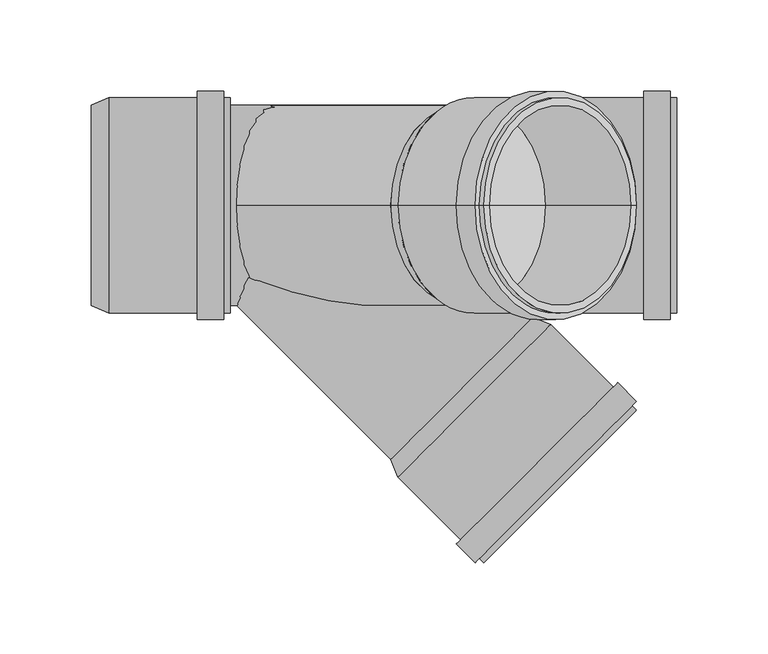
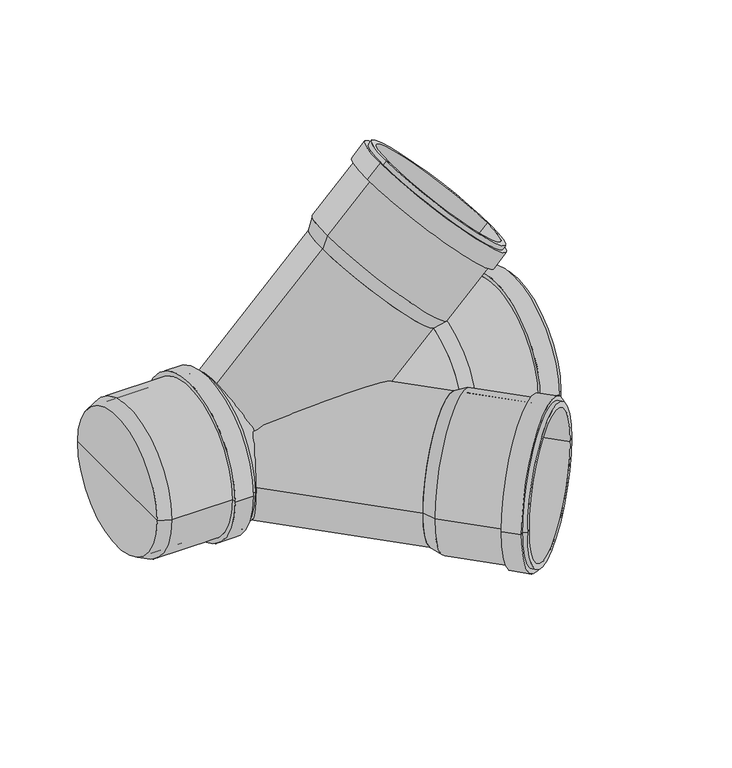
"""IFC4 building model written with IfcOpenShell, lengths in millimetres: pipe fitting geometry, pf_HTED : pf_HTED."""

from ifc_helpers import new_model, si_unit, point, frame, origin, origin_2d, place, context, project, spatial, polyline, circle_curve, trimmed, segment, composite_curve, outline, extrude, source, transform, mapped, element, save
from ifc_brep_helpers import plane_surface, cylinder_surface, revolved_surface, advanced_brep


def pipe_fitting_8f208a38(model_context):
    return source(origin(), model_context, "Body", "SolidModel", [
        advanced_brep(
        [(139.1586145, 0.0, 61.3768686), (61.3768686, 0.0, 139.1586145), (65.1952452, 0.0, 148.7752668), (148.7752668, 0.0, 65.1952452), (100.2677416, 0.0, 100.2677416), (195.7978677, 0.0, 112.2178462), (112.2178462, 0.0, 195.7978677), (115.116984, 0.0, 192.8987299), (192.8987299, 0.0, 115.116984), (193.3937047, 0.0, 109.8136831), (109.8136831, 0.0, 193.3937047), (195.7978677, 0.0, 107.4095201), (107.4095201, 0.0, 195.7978677), (185.5448194, 0.0, 97.1564717), (97.1564717, 0.0, 185.5448194), (183.1406563, 0.0, 99.5606348), (99.5606348, 0.0, 183.1406563), (145.876129, 0.0, 68.094383), (68.094383, 0.0, 145.876129), (106.985256, 0.0, 106.985256)],
        [
            (0, 1, circle_curve(frame((100.2677416, 0.0, 100.2677416), z_axis=(0.707106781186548, 0.0, 0.7071067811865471), x_axis=(-0.7071067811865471, 0.0, 0.707106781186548)), 55.0)),
            (1, 2),
            (2, 3, circle_curve(frame((106.985256, 0.0, 106.985256), z_axis=(-0.707106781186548, 0.0, -0.7071067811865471), x_axis=(-0.7071067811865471, 0.0, 0.707106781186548)), 59.1)),
            (3, 0),
            (1, 0, circle_curve(frame((100.2677416, 0.0, 100.2677416), z_axis=(0.707106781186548, 0.0, 0.7071067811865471), x_axis=(-0.7071067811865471, 0.0, 0.707106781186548)), 55.0)),
            (3, 2, circle_curve(frame((106.985256, 0.0, 106.985256), z_axis=(-0.707106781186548, 0.0, -0.7071067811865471), x_axis=(-0.7071067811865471, 0.0, 0.707106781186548)), 59.1)),
            (4, 1),
            (0, 4),
            (5, 6, circle_curve(frame((154.0078569, 0.0, 154.0078569), z_axis=(0.707106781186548, 0.0, 0.7071067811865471), x_axis=(-0.7071067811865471, 0.0, 0.707106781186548)), 59.1)),
            (6, 7),
            (7, 8, circle_curve(frame((154.0078569, 0.0, 154.0078569), z_axis=(-0.707106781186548, 0.0, -0.7071067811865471), x_axis=(-0.7071067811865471, 0.0, 0.707106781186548)), 55.0)),
            (8, 5),
            (6, 5, circle_curve(frame((154.0078569, 0.0, 154.0078569), z_axis=(0.707106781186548, 0.0, 0.7071067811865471), x_axis=(-0.7071067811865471, 0.0, 0.707106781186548)), 59.1)),
            (8, 7, circle_curve(frame((154.0078569, 0.0, 154.0078569), z_axis=(-0.707106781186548, 0.0, -0.7071067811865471), x_axis=(-0.7071067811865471, 0.0, 0.707106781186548)), 55.0)),
            (9, 10, circle_curve(frame((151.6036939, 0.0, 151.6036939), z_axis=(0.707106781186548, 0.0, 0.7071067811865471), x_axis=(-0.7071067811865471, 0.0, 0.707106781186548)), 59.1)),
            (10, 6),
            (5, 9),
            (10, 9, circle_curve(frame((151.6036939, 0.0, 151.6036939), z_axis=(0.707106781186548, 0.0, 0.7071067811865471), x_axis=(-0.7071067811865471, 0.0, 0.707106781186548)), 59.1)),
            (11, 12, circle_curve(frame((151.6036939, 0.0, 151.6036939), z_axis=(0.707106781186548, 0.0, 0.7071067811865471), x_axis=(-0.7071067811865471, 0.0, 0.707106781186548)), 62.5)),
            (12, 10),
            (9, 11),
            (12, 11, circle_curve(frame((151.6036939, 0.0, 151.6036939), z_axis=(0.707106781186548, 0.0, 0.7071067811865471), x_axis=(-0.7071067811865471, 0.0, 0.707106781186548)), 62.5)),
            (13, 14, circle_curve(frame((141.3506456, 0.0, 141.3506456), z_axis=(0.707106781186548, 0.0, 0.7071067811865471), x_axis=(-0.7071067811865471, 0.0, 0.707106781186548)), 62.5)),
            (14, 12),
            (11, 13),
            (14, 13, circle_curve(frame((141.3506456, 0.0, 141.3506456), z_axis=(0.707106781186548, 0.0, 0.7071067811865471), x_axis=(-0.7071067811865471, 0.0, 0.707106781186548)), 62.5)),
            (15, 16, circle_curve(frame((141.3506456, 0.0, 141.3506456), z_axis=(0.707106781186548, 0.0, 0.7071067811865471), x_axis=(-0.7071067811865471, 0.0, 0.707106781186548)), 59.1)),
            (16, 14),
            (13, 15),
            (16, 15, circle_curve(frame((141.3506456, 0.0, 141.3506456), z_axis=(0.707106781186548, 0.0, 0.7071067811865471), x_axis=(-0.7071067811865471, 0.0, 0.707106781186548)), 59.1)),
            (2, 16),
            (15, 3),
            (17, 18, circle_curve(frame((106.985256, 0.0, 106.985256), z_axis=(0.707106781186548, 0.0, 0.7071067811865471), x_axis=(-0.7071067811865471, 0.0, 0.707106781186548)), 55.0)),
            (18, 19),
            (19, 17),
            (18, 17, circle_curve(frame((106.985256, 0.0, 106.985256), z_axis=(0.707106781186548, 0.0, 0.7071067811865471), x_axis=(-0.7071067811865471, 0.0, 0.707106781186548)), 55.0)),
            (7, 18),
            (17, 8),
        ],
        [
            revolved_surface(polyline([(65.1952452, 0.0, 148.7752668), (61.3768686, 0.0, 139.1586145)]), (100.2677416, 0.0, 100.2677416), (-0.707106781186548, 0.0, -0.7071067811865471)),
            plane_surface(frame((100.2677416, 0.0, 100.2677416), z_axis=(-0.707106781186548, 0.0, -0.7071067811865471), x_axis=(-0.7071067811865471, 0.0, 0.707106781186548))),
            plane_surface(frame((154.0078569, 0.0, 154.0078569), z_axis=(0.707106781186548, 0.0, 0.7071067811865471), x_axis=(-0.7071067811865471, 0.0, 0.707106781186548))),
            cylinder_surface(frame((100.2677416, 0.0, 100.2677416), z_axis=(-0.707106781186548, 0.0, -0.7071067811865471), x_axis=(-0.7071067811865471, 0.0, 0.707106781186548)), 59.1),
            plane_surface(frame((151.6036939, 0.0, 151.6036939), z_axis=(0.707106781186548, 0.0, 0.7071067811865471), x_axis=(-0.7071067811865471, 0.0, 0.707106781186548))),
            cylinder_surface(frame((100.2677416, 0.0, 100.2677416), z_axis=(-0.707106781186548, 0.0, -0.7071067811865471), x_axis=(-0.7071067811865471, 0.0, 0.707106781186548)), 62.5),
            plane_surface(frame((141.3506456, 0.0, 141.3506456), z_axis=(-0.707106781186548, 0.0, -0.7071067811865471), x_axis=(-0.7071067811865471, 0.0, 0.707106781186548))),
            plane_surface(frame((106.985256, 0.0, 106.985256), z_axis=(0.707106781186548, 0.0, 0.7071067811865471), x_axis=(-0.7071067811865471, 0.0, 0.707106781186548))),
            revolved_surface(polyline([(68.09438303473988, 0.0, 145.8761289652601), (115.11698398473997, 0.0, 192.89872991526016)]), (100.2677416, 0.0, 100.2677416), (-0.707106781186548, 0.0, -0.7071067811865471)),
        ],
        [
            (0, [[1, 2, 3, 4]]),
            (0, [[5, -4, 6, -2]]),
            (1, [[7, -1, 8]]),
            (1, [[-8, -5, -7]]),
            (2, [[9, 10, 11, 12]]),
            (2, [[13, -12, 14, -10]]),
            (3, [[15, 16, -9, 17]]),
            (3, [[18, -17, -13, -16]]),
            (4, [[19, 20, -15, 21]]),
            (4, [[22, -21, -18, -20]]),
            (5, [[23, 24, -19, 25]]),
            (5, [[26, -25, -22, -24]]),
            (6, [[27, 28, -23, 29]]),
            (6, [[30, -29, -26, -28]]),
            (3, [[-3, 31, -27, 32]]),
            (3, [[-6, -32, -30, -31]]),
            (7, [[33, 34, 35]]),
            (7, [[36, -35, -34]]),
            (8, [[-11, 37, -33, 38]]),
            (8, [[-14, -38, -36, -37]]),
        ],
    ),
        advanced_brep(
        [(61.3768686, -139.1586145, 0.0), (139.1586145, -61.3768686, 0.0), (148.7752668, -65.1952452, 0.0), (65.1952452, -148.7752668, 0.0), (100.2677416, -100.2677416, 0.0), (112.2178462, -195.7978677, 0.0), (195.7978677, -112.2178462, 0.0), (192.8987299, -115.116984, 0.0), (115.116984, -192.8987299, 0.0), (109.8136831, -193.3937047, 0.0), (193.3937047, -109.8136831, 0.0), (107.4095201, -195.7978677, 0.0), (195.7978677, -107.4095201, 0.0), (97.1564717, -185.5448194, 0.0), (185.5448194, -97.1564717, 0.0), (99.5606348, -183.1406563, 0.0), (183.1406563, -99.5606348, 0.0), (68.094383, -145.876129, 0.0), (145.876129, -68.094383, 0.0), (106.985256, -106.985256, 0.0)],
        [
            (0, 1, circle_curve(frame((100.2677416, -100.2677416, 0.0), z_axis=(0.7071067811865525, -0.7071067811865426, 0.0), x_axis=(0.7071067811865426, 0.7071067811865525, 0.0)), 55.0)),
            (1, 2),
            (2, 3, circle_curve(frame((106.985256, -106.985256, 0.0), z_axis=(-0.7071067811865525, 0.7071067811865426, 0.0), x_axis=(0.7071067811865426, 0.7071067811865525, 0.0)), 59.1)),
            (3, 0),
            (1, 0, circle_curve(frame((100.2677416, -100.2677416, 0.0), z_axis=(0.7071067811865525, -0.7071067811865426, 0.0), x_axis=(0.7071067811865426, 0.7071067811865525, 0.0)), 55.0)),
            (3, 2, circle_curve(frame((106.985256, -106.985256, 0.0), z_axis=(-0.7071067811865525, 0.7071067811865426, 0.0), x_axis=(0.7071067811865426, 0.7071067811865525, 0.0)), 59.1)),
            (4, 1),
            (0, 4),
            (5, 6, circle_curve(frame((154.0078569, -154.0078569, 0.0), z_axis=(0.7071067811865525, -0.7071067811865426, 0.0), x_axis=(0.7071067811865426, 0.7071067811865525, 0.0)), 59.1)),
            (6, 7),
            (7, 8, circle_curve(frame((154.0078569, -154.0078569, 0.0), z_axis=(-0.7071067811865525, 0.7071067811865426, 0.0), x_axis=(0.7071067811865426, 0.7071067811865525, 0.0)), 55.0)),
            (8, 5),
            (6, 5, circle_curve(frame((154.0078569, -154.0078569, 0.0), z_axis=(0.7071067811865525, -0.7071067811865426, 0.0), x_axis=(0.7071067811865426, 0.7071067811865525, 0.0)), 59.1)),
            (8, 7, circle_curve(frame((154.0078569, -154.0078569, 0.0), z_axis=(-0.7071067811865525, 0.7071067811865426, 0.0), x_axis=(0.7071067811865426, 0.7071067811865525, 0.0)), 55.0)),
            (9, 10, circle_curve(frame((151.6036939, -151.6036939, 0.0), z_axis=(0.7071067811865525, -0.7071067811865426, 0.0), x_axis=(0.7071067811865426, 0.7071067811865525, 0.0)), 59.1)),
            (10, 6),
            (5, 9),
            (10, 9, circle_curve(frame((151.6036939, -151.6036939, 0.0), z_axis=(0.7071067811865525, -0.7071067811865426, 0.0), x_axis=(0.7071067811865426, 0.7071067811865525, 0.0)), 59.1)),
            (11, 12, circle_curve(frame((151.6036939, -151.6036939, 0.0), z_axis=(0.7071067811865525, -0.7071067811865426, 0.0), x_axis=(0.7071067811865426, 0.7071067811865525, 0.0)), 62.5)),
            (12, 10),
            (9, 11),
            (12, 11, circle_curve(frame((151.6036939, -151.6036939, 0.0), z_axis=(0.7071067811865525, -0.7071067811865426, 0.0), x_axis=(0.7071067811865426, 0.7071067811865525, 0.0)), 62.5)),
            (13, 14, circle_curve(frame((141.3506456, -141.3506456, 0.0), z_axis=(0.7071067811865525, -0.7071067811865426, 0.0), x_axis=(0.7071067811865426, 0.7071067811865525, 0.0)), 62.5)),
            (14, 12),
            (11, 13),
            (14, 13, circle_curve(frame((141.3506456, -141.3506456, 0.0), z_axis=(0.7071067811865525, -0.7071067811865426, 0.0), x_axis=(0.7071067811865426, 0.7071067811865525, 0.0)), 62.5)),
            (15, 16, circle_curve(frame((141.3506456, -141.3506456, 0.0), z_axis=(0.7071067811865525, -0.7071067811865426, 0.0), x_axis=(0.7071067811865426, 0.7071067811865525, 0.0)), 59.1)),
            (16, 14),
            (13, 15),
            (16, 15, circle_curve(frame((141.3506456, -141.3506456, 0.0), z_axis=(0.7071067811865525, -0.7071067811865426, 0.0), x_axis=(0.7071067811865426, 0.7071067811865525, 0.0)), 59.1)),
            (2, 16),
            (15, 3),
            (17, 18, circle_curve(frame((106.985256, -106.985256, 0.0), z_axis=(0.7071067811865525, -0.7071067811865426, 0.0), x_axis=(0.7071067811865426, 0.7071067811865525, 0.0)), 55.0)),
            (18, 19),
            (19, 17),
            (18, 17, circle_curve(frame((106.985256, -106.985256, 0.0), z_axis=(0.7071067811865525, -0.7071067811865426, 0.0), x_axis=(0.7071067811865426, 0.7071067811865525, 0.0)), 55.0)),
            (7, 18),
            (17, 8),
        ],
        [
            revolved_surface(polyline([(148.7752668, -65.1952452, 0.0), (139.1586145, -61.3768686, 0.0)]), (100.2677416, -100.2677416, 0.0), (-0.7071067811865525, 0.7071067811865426, 0.0)),
            plane_surface(frame((100.2677416, -100.2677416, 0.0), z_axis=(-0.7071067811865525, 0.7071067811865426, 0.0), x_axis=(0.7071067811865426, 0.7071067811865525, 0.0))),
            plane_surface(frame((154.0078569, -154.0078569, 0.0), z_axis=(0.7071067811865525, -0.7071067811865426, 0.0), x_axis=(0.7071067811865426, 0.7071067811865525, 0.0))),
            cylinder_surface(frame((100.2677416, -100.2677416, 0.0), z_axis=(-0.7071067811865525, 0.7071067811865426, 0.0), x_axis=(0.7071067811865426, 0.7071067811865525, 0.0)), 59.1),
            plane_surface(frame((151.6036939, -151.6036939, 0.0), z_axis=(0.7071067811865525, -0.7071067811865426, 0.0), x_axis=(0.7071067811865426, 0.7071067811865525, 0.0))),
            cylinder_surface(frame((100.2677416, -100.2677416, 0.0), z_axis=(-0.7071067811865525, 0.7071067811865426, 0.0), x_axis=(0.7071067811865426, 0.7071067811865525, 0.0)), 62.5),
            plane_surface(frame((141.3506456, -141.3506456, 0.0), z_axis=(-0.7071067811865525, 0.7071067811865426, 0.0), x_axis=(0.7071067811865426, 0.7071067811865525, 0.0))),
            plane_surface(frame((106.985256, -106.985256, 0.0), z_axis=(0.7071067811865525, -0.7071067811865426, 0.0), x_axis=(0.7071067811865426, 0.7071067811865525, 0.0))),
            revolved_surface(polyline([(145.8761289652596, -68.0943830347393, 0.0), (192.89872991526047, -115.1169839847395, 0.0)]), (100.2677416, -100.2677416, 0.0), (-0.7071067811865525, 0.7071067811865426, 0.0)),
        ],
        [
            (0, [[1, 2, 3, 4]]),
            (0, [[5, -4, 6, -2]]),
            (1, [[7, -1, 8]]),
            (1, [[-8, -5, -7]]),
            (2, [[9, 10, 11, 12]]),
            (2, [[13, -12, 14, -10]]),
            (3, [[15, 16, -9, 17]]),
            (3, [[18, -17, -13, -16]]),
            (4, [[19, 20, -15, 21]]),
            (4, [[22, -21, -18, -20]]),
            (5, [[23, 24, -19, 25]]),
            (5, [[26, -25, -22, -24]]),
            (6, [[27, 28, -23, 29]]),
            (6, [[30, -29, -26, -28]]),
            (3, [[-3, 31, -27, 32]]),
            (3, [[-6, -32, -30, -31]]),
            (7, [[33, 34, 35]]),
            (7, [[36, -35, -34]]),
            (8, [[-11, 37, -33, 38]]),
            (8, [[-14, -38, -36, -37]]),
        ],
    ),
        advanced_brep(
        [(141.8, -55.0, 0.0), (141.8, 55.0, 0.0), (151.3, 59.1, 0.0), (151.3, -59.1, 0.0), (141.8, 0.0, 0.0), (217.8, -59.1, 0.0), (217.8, 59.1, 0.0), (217.8, 55.0, 0.0), (217.8, -55.0, 0.0), (214.4, -59.1, 0.0), (214.4, 59.1, 0.0), (214.4, -62.5, 0.0), (214.4, 62.5, 0.0), (199.9, -62.5, 0.0), (199.9, 62.5, 0.0), (199.9, -59.1, 0.0), (199.9, 59.1, 0.0), (151.3, -55.0, 0.0), (151.3, 55.0, 0.0), (151.3, 0.0, 0.0)],
        [
            (0, 1, circle_curve(frame((141.8, 0.0, 0.0), z_axis=(1.0, 0.0, 0.0), x_axis=(0.0, 1.0, 0.0)), 55.0)),
            (1, 2),
            (2, 3, circle_curve(frame((151.3, 0.0, 0.0), z_axis=(-1.0, 0.0, 0.0), x_axis=(0.0, 1.0, 0.0)), 59.1)),
            (3, 0),
            (1, 0, circle_curve(frame((141.8, 0.0, 0.0), z_axis=(1.0, 0.0, 0.0), x_axis=(0.0, 1.0, 0.0)), 55.0)),
            (3, 2, circle_curve(frame((151.3, 0.0, 0.0), z_axis=(-1.0, 0.0, 0.0), x_axis=(0.0, 1.0, 0.0)), 59.1)),
            (4, 1),
            (0, 4),
            (5, 6, circle_curve(frame((217.8, 0.0, 0.0), z_axis=(1.0, 0.0, 0.0), x_axis=(0.0, 1.0, 0.0)), 59.1)),
            (6, 7),
            (7, 8, circle_curve(frame((217.8, 0.0, 0.0), z_axis=(-1.0, 0.0, 0.0), x_axis=(0.0, 1.0, 0.0)), 55.0)),
            (8, 5),
            (6, 5, circle_curve(frame((217.8, 0.0, 0.0), z_axis=(1.0, 0.0, 0.0), x_axis=(0.0, 1.0, 0.0)), 59.1)),
            (8, 7, circle_curve(frame((217.8, 0.0, 0.0), z_axis=(-1.0, 0.0, 0.0), x_axis=(0.0, 1.0, 0.0)), 55.0)),
            (9, 10, circle_curve(frame((214.4, 0.0, 0.0), z_axis=(1.0, 0.0, 0.0), x_axis=(0.0, 1.0, 0.0)), 59.1)),
            (10, 6),
            (5, 9),
            (10, 9, circle_curve(frame((214.4, 0.0, 0.0), z_axis=(1.0, 0.0, 0.0), x_axis=(0.0, 1.0, 0.0)), 59.1)),
            (11, 12, circle_curve(frame((214.4, 0.0, 0.0), z_axis=(1.0, 0.0, 0.0), x_axis=(0.0, 1.0, 0.0)), 62.5)),
            (12, 10),
            (9, 11),
            (12, 11, circle_curve(frame((214.4, 0.0, 0.0), z_axis=(1.0, 0.0, 0.0), x_axis=(0.0, 1.0, 0.0)), 62.5)),
            (13, 14, circle_curve(frame((199.9, 0.0, 0.0), z_axis=(1.0, 0.0, 0.0), x_axis=(0.0, 1.0, 0.0)), 62.5)),
            (14, 12),
            (11, 13),
            (14, 13, circle_curve(frame((199.9, 0.0, 0.0), z_axis=(1.0, 0.0, 0.0), x_axis=(0.0, 1.0, 0.0)), 62.5)),
            (15, 16, circle_curve(frame((199.9, 0.0, 0.0), z_axis=(1.0, 0.0, 0.0), x_axis=(0.0, 1.0, 0.0)), 59.1)),
            (16, 14),
            (13, 15),
            (16, 15, circle_curve(frame((199.9, 0.0, 0.0), z_axis=(1.0, 0.0, 0.0), x_axis=(0.0, 1.0, 0.0)), 59.1)),
            (2, 16),
            (15, 3),
            (17, 18, circle_curve(frame((151.3, 0.0, 0.0), z_axis=(1.0, 0.0, 0.0), x_axis=(0.0, 1.0, 0.0)), 55.0)),
            (18, 19),
            (19, 17),
            (18, 17, circle_curve(frame((151.3, 0.0, 0.0), z_axis=(1.0, 0.0, 0.0), x_axis=(0.0, 1.0, 0.0)), 55.0)),
            (7, 18),
            (17, 8),
        ],
        [
            revolved_surface(polyline([(151.3, 59.1, 0.0), (141.8, 55.0, 0.0)]), (141.8, 0.0, 0.0), (-1.0, 0.0, 0.0)),
            plane_surface(frame((141.8, 0.0, 0.0), z_axis=(-1.0, 0.0, 0.0), x_axis=(0.0, 1.0, 0.0))),
            plane_surface(frame((217.8, 0.0, 0.0), z_axis=(1.0, 0.0, 0.0), x_axis=(0.0, 1.0, 0.0))),
            cylinder_surface(frame((141.8, 0.0, 0.0), z_axis=(-1.0, 0.0, 0.0), x_axis=(0.0, 1.0, 0.0)), 59.1),
            plane_surface(frame((214.4, 0.0, 0.0), z_axis=(1.0, 0.0, 0.0), x_axis=(0.0, 1.0, 0.0))),
            cylinder_surface(frame((141.8, 0.0, 0.0), z_axis=(-1.0, 0.0, 0.0), x_axis=(0.0, 1.0, 0.0)), 62.5),
            plane_surface(frame((199.9, 0.0, 0.0), z_axis=(-1.0, 0.0, 0.0), x_axis=(0.0, 1.0, 0.0))),
            plane_surface(frame((151.3, 0.0, 0.0), z_axis=(1.0, 0.0, 0.0), x_axis=(0.0, 1.0, 0.0))),
            revolved_surface(polyline([(151.3, 55.0, 0.0), (217.8, 55.0, 0.0)]), (141.8, 0.0, 0.0), (-1.0, 0.0, 0.0)),
        ],
        [
            (0, [[1, 2, 3, 4]]),
            (0, [[5, -4, 6, -2]]),
            (1, [[7, -1, 8]]),
            (1, [[-8, -5, -7]]),
            (2, [[9, 10, 11, 12]]),
            (2, [[13, -12, 14, -10]]),
            (3, [[15, 16, -9, 17]]),
            (3, [[18, -17, -13, -16]]),
            (4, [[19, 20, -15, 21]]),
            (4, [[22, -21, -18, -20]]),
            (5, [[23, 24, -19, 25]]),
            (5, [[26, -25, -22, -24]]),
            (6, [[27, 28, -23, 29]]),
            (6, [[30, -29, -26, -28]]),
            (3, [[-3, 31, -27, 32]]),
            (3, [[-6, -32, -30, -31]]),
            (7, [[33, 34, 35]]),
            (7, [[36, -35, -34]]),
            (8, [[-11, 37, -33, 38]]),
            (8, [[-14, -38, -36, -37]]),
        ],
    ),
        advanced_brep(
        [(-102.7, -55.0, 0.0), (-102.7, 55.0, 0.0), (-93.2, 59.1, 0.0), (-93.2, -59.1, 0.0), (-102.7, 0.0, 0.0), (-26.7, -59.1, 0.0), (-26.7, 59.1, 0.0), (-26.7, 55.0, 0.0), (-26.7, -55.0, 0.0), (-30.1, -59.1, 0.0), (-30.1, 59.1, 0.0), (-30.1, -62.5, 0.0), (-30.1, 62.5, 0.0), (-44.6, -62.5, 0.0), (-44.6, 62.5, 0.0), (-44.6, -59.1, 0.0), (-44.6, 59.1, 0.0), (-93.2, -55.0, 0.0), (-93.2, 55.0, 0.0), (-93.2, 0.0, 0.0)],
        [
            (0, 1, circle_curve(frame((-102.7, 0.0, 0.0), z_axis=(1.0, 0.0, 0.0), x_axis=(0.0, 1.0, 0.0)), 55.0)),
            (1, 2),
            (2, 3, circle_curve(frame((-93.2, 0.0, 0.0), z_axis=(-1.0, 0.0, 0.0), x_axis=(0.0, 1.0, 0.0)), 59.1)),
            (3, 0),
            (1, 0, circle_curve(frame((-102.7, 0.0, 0.0), z_axis=(1.0, 0.0, 0.0), x_axis=(0.0, 1.0, 0.0)), 55.0)),
            (3, 2, circle_curve(frame((-93.2, 0.0, 0.0), z_axis=(-1.0, 0.0, 0.0), x_axis=(0.0, 1.0, 0.0)), 59.1)),
            (4, 1),
            (0, 4),
            (5, 6, circle_curve(frame((-26.7, 0.0, 0.0), z_axis=(1.0, 0.0, 0.0), x_axis=(0.0, 1.0, 0.0)), 59.1)),
            (6, 7),
            (7, 8, circle_curve(frame((-26.7, 0.0, 0.0), z_axis=(-1.0, 0.0, 0.0), x_axis=(0.0, 1.0, 0.0)), 55.0)),
            (8, 5),
            (6, 5, circle_curve(frame((-26.7, 0.0, 0.0), z_axis=(1.0, 0.0, 0.0), x_axis=(0.0, 1.0, 0.0)), 59.1)),
            (8, 7, circle_curve(frame((-26.7, 0.0, 0.0), z_axis=(-1.0, 0.0, 0.0), x_axis=(0.0, 1.0, 0.0)), 55.0)),
            (9, 10, circle_curve(frame((-30.1, 0.0, 0.0), z_axis=(1.0, 0.0, 0.0), x_axis=(0.0, 1.0, 0.0)), 59.1)),
            (10, 6),
            (5, 9),
            (10, 9, circle_curve(frame((-30.1, 0.0, 0.0), z_axis=(1.0, 0.0, 0.0), x_axis=(0.0, 1.0, 0.0)), 59.1)),
            (11, 12, circle_curve(frame((-30.1, 0.0, 0.0), z_axis=(1.0, 0.0, 0.0), x_axis=(0.0, 1.0, 0.0)), 62.5)),
            (12, 10),
            (9, 11),
            (12, 11, circle_curve(frame((-30.1, 0.0, 0.0), z_axis=(1.0, 0.0, 0.0), x_axis=(0.0, 1.0, 0.0)), 62.5)),
            (13, 14, circle_curve(frame((-44.6, 0.0, 0.0), z_axis=(1.0, 0.0, 0.0), x_axis=(0.0, 1.0, 0.0)), 62.5)),
            (14, 12),
            (11, 13),
            (14, 13, circle_curve(frame((-44.6, 0.0, 0.0), z_axis=(1.0, 0.0, 0.0), x_axis=(0.0, 1.0, 0.0)), 62.5)),
            (15, 16, circle_curve(frame((-44.6, 0.0, 0.0), z_axis=(1.0, 0.0, 0.0), x_axis=(0.0, 1.0, 0.0)), 59.1)),
            (16, 14),
            (13, 15),
            (16, 15, circle_curve(frame((-44.6, 0.0, 0.0), z_axis=(1.0, 0.0, 0.0), x_axis=(0.0, 1.0, 0.0)), 59.1)),
            (2, 16),
            (15, 3),
            (17, 18, circle_curve(frame((-93.2, 0.0, 0.0), z_axis=(1.0, 0.0, 0.0), x_axis=(0.0, 1.0, 0.0)), 55.0)),
            (18, 19),
            (19, 17),
            (18, 17, circle_curve(frame((-93.2, 0.0, 0.0), z_axis=(1.0, 0.0, 0.0), x_axis=(0.0, 1.0, 0.0)), 55.0)),
            (7, 18),
            (17, 8),
        ],
        [
            revolved_surface(polyline([(-93.2, 59.1, 0.0), (-102.7, 55.0, 0.0)]), (-102.7, 0.0, 0.0), (-1.0, 0.0, 0.0)),
            plane_surface(frame((-102.7, 0.0, 0.0), z_axis=(-1.0, 0.0, 0.0), x_axis=(0.0, 1.0, 0.0))),
            plane_surface(frame((-26.7, 0.0, 0.0), z_axis=(1.0, 0.0, 0.0), x_axis=(0.0, 1.0, 0.0))),
            cylinder_surface(frame((-102.7, 0.0, 0.0), z_axis=(-1.0, 0.0, 0.0), x_axis=(0.0, 1.0, 0.0)), 59.1),
            plane_surface(frame((-30.1, 0.0, 0.0), z_axis=(1.0, 0.0, 0.0), x_axis=(0.0, 1.0, 0.0))),
            cylinder_surface(frame((-102.7, 0.0, 0.0), z_axis=(-1.0, 0.0, 0.0), x_axis=(0.0, 1.0, 0.0)), 62.5),
            plane_surface(frame((-44.6, 0.0, 0.0), z_axis=(-1.0, 0.0, 0.0), x_axis=(0.0, 1.0, 0.0))),
            plane_surface(frame((-93.2, 0.0, 0.0), z_axis=(1.0, 0.0, 0.0), x_axis=(0.0, 1.0, 0.0))),
            revolved_surface(polyline([(-93.2, 55.0, 0.0), (-26.700000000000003, 55.0, 0.0)]), (-102.7, 0.0, 0.0), (-1.0, 0.0, 0.0)),
        ],
        [
            (0, [[1, 2, 3, 4]]),
            (0, [[5, -4, 6, -2]]),
            (1, [[7, -1, 8]]),
            (1, [[-8, -5, -7]]),
            (2, [[9, 10, 11, 12]]),
            (2, [[13, -12, 14, -10]]),
            (3, [[15, 16, -9, 17]]),
            (3, [[18, -17, -13, -16]]),
            (4, [[19, 20, -15, 21]]),
            (4, [[22, -21, -18, -20]]),
            (5, [[23, 24, -19, 25]]),
            (5, [[26, -25, -22, -24]]),
            (6, [[27, 28, -23, 29]]),
            (6, [[30, -29, -26, -28]]),
            (3, [[-3, 31, -27, 32]]),
            (3, [[-6, -32, -30, -31]]),
            (7, [[33, 34, 35]]),
            (7, [[36, -35, -34]]),
            (8, [[-11, 37, -33, 38]]),
            (8, [[-14, -38, -36, -37]]),
        ],
    ),
        extrude(outline(composite_curve([segment(trimmed(circle_curve(origin_2d(), 55.0), [point((0.0, 55.0))], [point((0.0, -55.0))], False, "CARTESIAN"), True, "CONTINUOUS"), segment(trimmed(circle_curve(origin_2d(), 55.0), [point((0.0, -55.0))], [point((0.0, 55.0))], False, "CARTESIAN"), True, "CONTINUOUS")], self_intersect=False)), frame((0.0, 0.0, 0.0), z_axis=(0.707106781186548, 0.0, 0.707106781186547), x_axis=(0.0, -1.0, 0.0)), (0.0, 0.0, 1.0), 141.8),
        extrude(outline(composite_curve([segment(trimmed(circle_curve(origin_2d(), 55.0), [point((0.0, -55.0))], [point((0.0, 55.0))], False, "CARTESIAN"), True, "CONTINUOUS"), segment(trimmed(circle_curve(origin_2d(), 55.0), [point((0.0, 55.0))], [point((0.0, -55.0))], False, "CARTESIAN"), True, "CONTINUOUS")], self_intersect=False)), frame((100.2677416, -100.2677416, 0.0), z_axis=(-0.707106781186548, 0.707106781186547, 0.0), x_axis=(0.0, 0.0, 1.0)), (0.0, 0.0, 1.0), 141.8),
        extrude(outline(composite_curve([segment(trimmed(circle_curve(origin_2d(), 55.0), [point((-55.0, 0.0))], [point((55.0, 0.0))], False, "CARTESIAN"), True, "CONTINUOUS"), segment(trimmed(circle_curve(origin_2d(), 55.0), [point((55.0, 0.0))], [point((-55.0, 0.0))], False, "CARTESIAN"), True, "CONTINUOUS")], self_intersect=False)), frame((-93.2, 0.0, 0.0), z_axis=(1.0, 0.0, 0.0), x_axis=(0.0, 1.0, 0.0)), (0.0, 0.0, 1.0), 235.0),
    ])


if __name__ == "__main__":
    model = new_model("IFC4")
    model_context = context("Model", 3, world=origin())
    ifc_project = project(units=[si_unit("LENGTHUNIT", "METRE", prefix="MILLI")], contexts=[model_context])
    site = spatial("IfcSite", under=ifc_project)
    building = spatial("IfcBuilding", under=site)
    placement = place(None, origin())
    pipe_fitting_shape = pipe_fitting_8f208a38(model_context)
    element("IfcPipeFitting", 1, ObjectType="pf_HTED : pf_HTED", at=placement, inside=building, context=model_context, shape_type="MappedRepresentation", body=[
        mapped(pipe_fitting_shape, transform((0.0, 0.0, 0.0), x_axis=(1.0, 0.0, 0.0), y_axis=(0.0, 1.0, 0.0), z_axis=(0.0, 0.0, 1.0))),
    ])
    save(model, "model.ifc")
